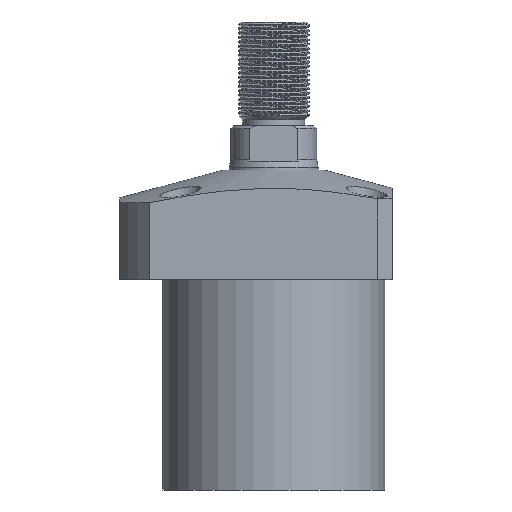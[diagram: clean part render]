
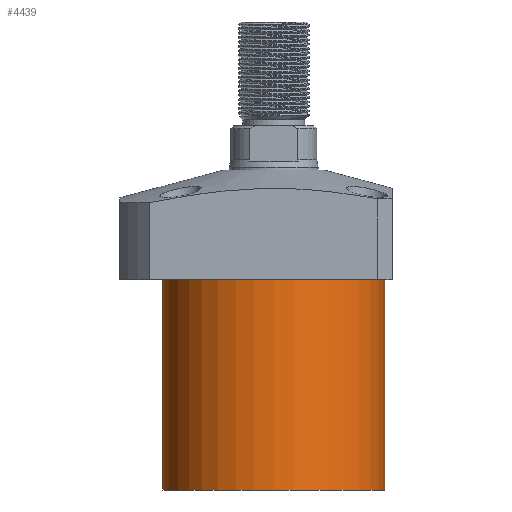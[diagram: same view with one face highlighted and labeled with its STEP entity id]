
A CAD part, front view. The second image highlights one B-rep face of the part: STEP entity #4439.
In plain terms, the highlighted cylindrical face has radius 37.5 mm (diameter 75 mm), a partial arc.
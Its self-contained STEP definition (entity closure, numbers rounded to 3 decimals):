
#176 = ORIENTED_EDGE ( 'NONE', *, *, #3737, .F. ) ;
#610 = VERTEX_POINT ( 'NONE', #8039 ) ;
#862 = FACE_OUTER_BOUND ( 'NONE', #7597, .T. ) ;
#1179 = CARTESIAN_POINT ( 'NONE',  ( 37.5, 0., -18.5 ) ) ;
#1390 = ORIENTED_EDGE ( 'NONE', *, *, #3357, .T. ) ;
#1687 = AXIS2_PLACEMENT_3D ( 'NONE', #6648, #3546, #2916 ) ;
#2007 = LINE ( 'NONE', #3207, #2603 ) ;
#2370 = DIRECTION ( 'NONE',  ( 0., 0., -1. ) ) ;
#2603 = VECTOR ( 'NONE', #3176, 1000. ) ;
#2916 = DIRECTION ( 'NONE',  ( 1., 0., 0. ) ) ;
#3176 = DIRECTION ( 'NONE',  ( 0., 0., 1. ) ) ;
#3207 = CARTESIAN_POINT ( 'NONE',  ( -37.5, 0., -89.5 ) ) ;
#3257 = CARTESIAN_POINT ( 'NONE',  ( 37.5, 0., -89.5 ) ) ;
#3357 = EDGE_CURVE ( 'NONE', #5173, #3629, #7744, .T. ) ;
#3409 = AXIS2_PLACEMENT_3D ( 'NONE', #4601, #5875, #6385 ) ;
#3546 = DIRECTION ( 'NONE',  ( 0., 0., 1. ) ) ;
#3629 = VERTEX_POINT ( 'NONE', #7127 ) ;
#3737 = EDGE_CURVE ( 'NONE', #6671, #610, #7931, .T. ) ;
#3990 = AXIS2_PLACEMENT_3D ( 'NONE', #5460, #2370, #6717 ) ;
#4439 = ADVANCED_FACE ( 'NONE', ( #862 ), #5631, .T. ) ;
#4601 = CARTESIAN_POINT ( 'NONE',  ( 0., 0., -18.5 ) ) ;
#5173 = VERTEX_POINT ( 'NONE', #1179 ) ;
#5460 = CARTESIAN_POINT ( 'NONE',  ( 0., 0., -89.5 ) ) ;
#5519 = ORIENTED_EDGE ( 'NONE', *, *, #6599, .F. ) ;
#5631 = CYLINDRICAL_SURFACE ( 'NONE', #1687, 37.5 ) ;
#5875 = DIRECTION ( 'NONE',  ( 0., 0., -1. ) ) ;
#6385 = DIRECTION ( 'NONE',  ( 1., 0., 0. ) ) ;
#6440 = ORIENTED_EDGE ( 'NONE', *, *, #8037, .T. ) ;
#6599 = EDGE_CURVE ( 'NONE', #610, #3629, #2007, .T. ) ;
#6648 = CARTESIAN_POINT ( 'NONE',  ( 0., 0., -89.5 ) ) ;
#6671 = VERTEX_POINT ( 'NONE', #7501 ) ;
#6717 = DIRECTION ( 'NONE',  ( -1., 0., 0. ) ) ;
#6878 = LINE ( 'NONE', #3257, #7732 ) ;
#7127 = CARTESIAN_POINT ( 'NONE',  ( -37.5, 0., -18.5 ) ) ;
#7501 = CARTESIAN_POINT ( 'NONE',  ( 37.5, 0., -89.5 ) ) ;
#7576 = DIRECTION ( 'NONE',  ( 0., 0., 1. ) ) ;
#7597 = EDGE_LOOP ( 'NONE', ( #5519, #176, #6440, #1390 ) ) ;
#7732 = VECTOR ( 'NONE', #7576, 1000. ) ;
#7744 = CIRCLE ( 'NONE', #3409, 37.5 ) ;
#7931 = CIRCLE ( 'NONE', #3990, 37.5 ) ;
#8037 = EDGE_CURVE ( 'NONE', #6671, #5173, #6878, .T. ) ;
#8039 = CARTESIAN_POINT ( 'NONE',  ( -37.5, 0., -89.5 ) ) ;
